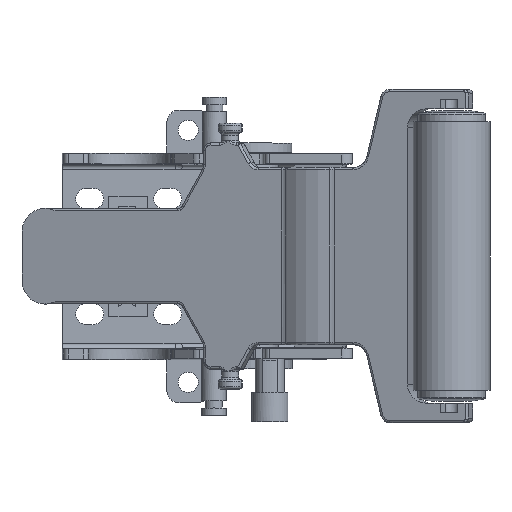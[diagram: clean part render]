
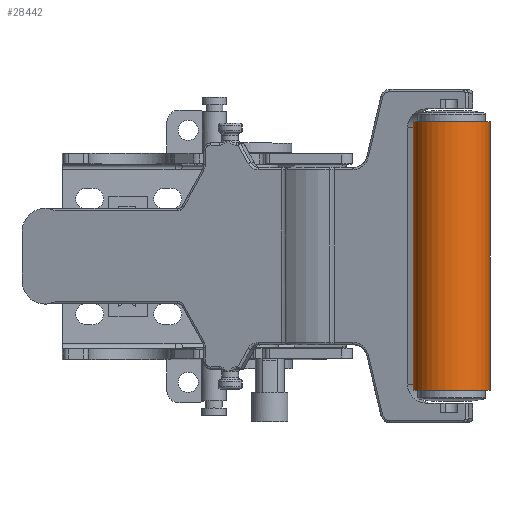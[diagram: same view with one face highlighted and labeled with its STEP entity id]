
A CAD part, top view. The second image highlights one B-rep face of the part: STEP entity #28442.
In plain terms, the highlighted cylindrical face has radius 8 mm (diameter 16 mm), a partial arc.
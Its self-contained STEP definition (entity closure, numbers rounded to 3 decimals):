
#28166=CARTESIAN_POINT('',(0.,-28.,0.));
#28167=DIRECTION('',(0.,1.,0.));
#28168=DIRECTION('',(-1.,0.,0.));
#28169=AXIS2_PLACEMENT_3D('',#28166,#28167,#28168);
#28181=DIRECTION('',(0.,1.,0.));
#28182=VECTOR('',#28181,56.);
#28183=CARTESIAN_POINT('',(8.,-28.,0.));
#28184=LINE('',#28183,#28182);
#28185=DIRECTION('',(0.,1.,0.));
#28186=VECTOR('',#28185,56.);
#28187=CARTESIAN_POINT('',(-8.,-28.,0.));
#28188=LINE('',#28187,#28186);
#28194=CARTESIAN_POINT('',(0.,28.,0.));
#28195=DIRECTION('',(0.,1.,0.));
#28196=DIRECTION('',(-1.,0.,0.));
#28197=AXIS2_PLACEMENT_3D('',#28194,#28195,#28196);
#28349=CARTESIAN_POINT('',(8.,-28.,0.));
#28350=CARTESIAN_POINT('',(-8.,-28.,0.));
#28351=VERTEX_POINT('',#28349);
#28352=VERTEX_POINT('',#28350);
#28353=CARTESIAN_POINT('',(8.,28.,0.));
#28354=CARTESIAN_POINT('',(-8.,28.,0.));
#28355=VERTEX_POINT('',#28353);
#28356=VERTEX_POINT('',#28354);
#28430=CARTESIAN_POINT('',(0.,-28.,0.));
#28431=DIRECTION('',(0.,1.,0.));
#28432=DIRECTION('',(1.,0.,0.));
#28433=AXIS2_PLACEMENT_3D('',#28430,#28431,#28432);
#28434=CYLINDRICAL_SURFACE('',#28433,8.);
#28435=ORIENTED_EDGE('',*,*,#28404,.F.);
#28436=ORIENTED_EDGE('',*,*,#28425,.T.);
#28438=ORIENTED_EDGE('',*,*,#28437,.T.);
#28439=ORIENTED_EDGE('',*,*,#28421,.F.);
#28440=EDGE_LOOP('',(#28435,#28436,#28438,#28439));
#28441=FACE_OUTER_BOUND('',#28440,.F.);
#28442=ADVANCED_FACE('',(#28441),#28434,.T.);
#28170=CIRCLE('',#28169,8.);
#28198=CIRCLE('',#28197,8.);
#28404=EDGE_CURVE('',#28352,#28351,#28170,.T.);
#28421=EDGE_CURVE('',#28351,#28355,#28184,.T.);
#28425=EDGE_CURVE('',#28352,#28356,#28188,.T.);
#28437=EDGE_CURVE('',#28356,#28355,#28198,.T.);
